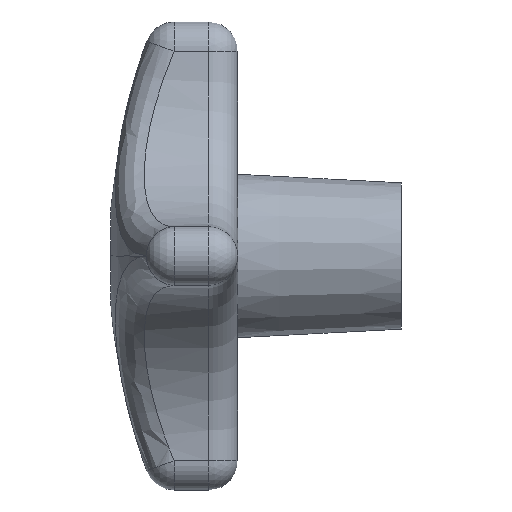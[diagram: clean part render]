
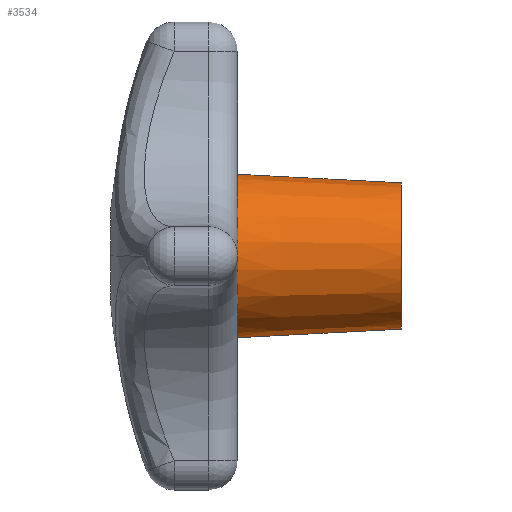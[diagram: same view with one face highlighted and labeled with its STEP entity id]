
A CAD part, left-side view. The second image highlights one B-rep face of the part: STEP entity #3534.
In plain terms, the highlighted conical face has half-angle 3 degrees and reference radius 12.5 mm.
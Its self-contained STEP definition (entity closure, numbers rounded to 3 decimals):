
#762 = ORIENTED_EDGE ( 'NONE', *, *, #3584, .F. ) ;
#766 = ORIENTED_EDGE ( 'NONE', *, *, #3567, .T. ) ;
#2839 = CARTESIAN_POINT ( 'NONE',  ( 0., -28., 0. ) ) ;
#2840 = CONICAL_SURFACE ( 'NONE', #2914, 12.5, 0.052 ) ;
#2844 = FACE_OUTER_BOUND ( 'NONE', #3583, .T. ) ;
#2912 = DIRECTION ( 'NONE',  ( 0., 0., 1. ) ) ;
#2913 = DIRECTION ( 'NONE',  ( 0., 1., 0. ) ) ;
#2914 = AXIS2_PLACEMENT_3D ( 'NONE', #2839, #2913, #2912 ) ;
#2995 = CARTESIAN_POINT ( 'NONE',  ( 0., -28., 12.5 ) ) ;
#2996 = CARTESIAN_POINT ( 'NONE',  ( 0., -28., -12.5 ) ) ;
#2997 = DIRECTION ( 'NONE',  ( 0., 0.999, -0.052 ) ) ;
#2998 = VECTOR ( 'NONE', #2997, 1000. ) ;
#2999 = CARTESIAN_POINT ( 'NONE',  ( 0., -28., -12.5 ) ) ;
#3000 = LINE ( 'NONE', #2999, #2998 ) ;
#3001 = CARTESIAN_POINT ( 'NONE',  ( 0., 0., -13.967 ) ) ;
#3007 = DIRECTION ( 'NONE',  ( 0., 0.999, 0.052 ) ) ;
#3008 = VECTOR ( 'NONE', #3007, 1000. ) ;
#3009 = CARTESIAN_POINT ( 'NONE',  ( 0., -28., 12.5 ) ) ;
#3010 = LINE ( 'NONE', #3009, #3008 ) ;
#3011 = CARTESIAN_POINT ( 'NONE',  ( 0., 0., 13.967 ) ) ;
#3037 = DIRECTION ( 'NONE',  ( 0., 0., 1. ) ) ;
#3038 = DIRECTION ( 'NONE',  ( 0., 1., 0. ) ) ;
#3039 = CARTESIAN_POINT ( 'NONE',  ( 0., 0., 0. ) ) ;
#3040 = AXIS2_PLACEMENT_3D ( 'NONE', #3039, #3038, #3037 ) ;
#3041 = CIRCLE ( 'NONE', #3040, 13.967 ) ;
#3042 = DIRECTION ( 'NONE',  ( 0., 0., 1. ) ) ;
#3043 = DIRECTION ( 'NONE',  ( 0., 1., 0. ) ) ;
#3044 = CARTESIAN_POINT ( 'NONE',  ( 0., -28., 0. ) ) ;
#3045 = AXIS2_PLACEMENT_3D ( 'NONE', #3044, #3043, #3042 ) ;
#3049 = CIRCLE ( 'NONE', #3045, 12.5 ) ;
#3534 = ADVANCED_FACE ( 'NONE', ( #2844 ), #2840, .T. ) ;
#3565 = VERTEX_POINT ( 'NONE', #3011 ) ;
#3567 = EDGE_CURVE ( 'NONE', #3574, #3565, #3010, .T. ) ;
#3571 = VERTEX_POINT ( 'NONE', #3001 ) ;
#3572 = EDGE_CURVE ( 'NONE', #3573, #3571, #3000, .T. ) ;
#3573 = VERTEX_POINT ( 'NONE', #2996 ) ;
#3574 = VERTEX_POINT ( 'NONE', #2995 ) ;
#3580 = ORIENTED_EDGE ( 'NONE', *, *, #3572, .F. ) ;
#3581 = ORIENTED_EDGE ( 'NONE', *, *, #3582, .T. ) ;
#3582 = EDGE_CURVE ( 'NONE', #3573, #3574, #3049, .T. ) ;
#3583 = EDGE_LOOP ( 'NONE', ( #3580, #3581, #766, #762 ) ) ;
#3584 = EDGE_CURVE ( 'NONE', #3571, #3565, #3041, .T. ) ;
